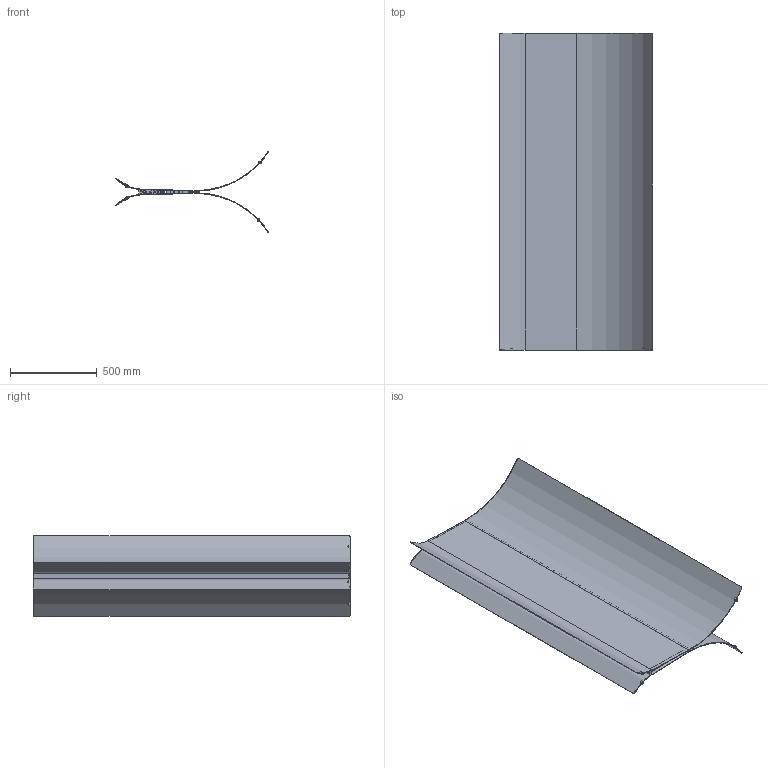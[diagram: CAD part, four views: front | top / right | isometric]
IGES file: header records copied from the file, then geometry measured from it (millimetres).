
Start section: SolidWorks IGES file using analytic representation for surfaces
Global section: file name: C:\VaultDeCastelli\Progetti\DC\PESO LEGGERO PRODOTTI\Ale\DeCastelli-3D-Monolìte.igs; native system: SolidWorks 2022; preprocessor: SolidWorks 2022; author: AlessandroP; date: 240719.130107; units: millimetre
Bounding box: 885.06 x 1835 x 466.99 mm (x, y, z)
Surface area: 7249670.3 mm2 (no closed solid volume)
Topology: 0 solids, 0 shells, 125 faces, 11693 edges, 11691 vertices
Faces by surface type: revolution 64, bspline 61
